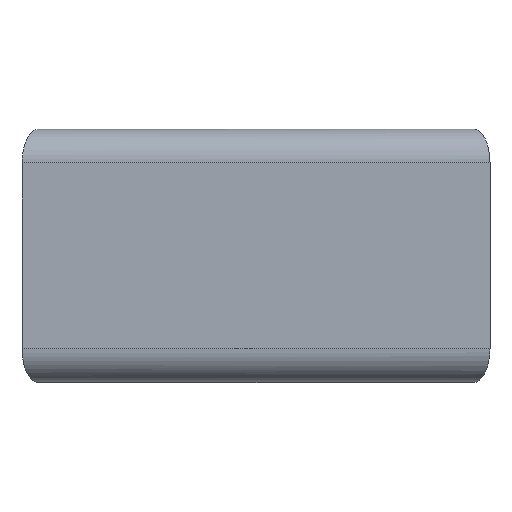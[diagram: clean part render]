
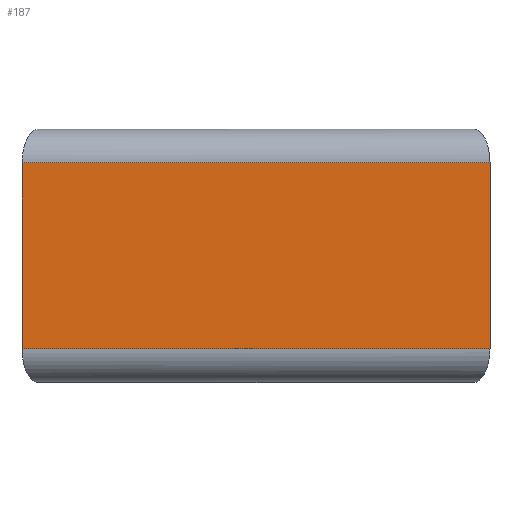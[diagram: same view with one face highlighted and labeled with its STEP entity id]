
A CAD part, top view. The second image highlights one B-rep face of the part: STEP entity #187.
In plain terms, the highlighted planar face has unit normal (0, 0, 1).
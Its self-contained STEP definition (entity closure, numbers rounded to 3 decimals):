
#3 = LINE ( 'NONE', #436, #289 ) ;
#53 = ORIENTED_EDGE ( 'NONE', *, *, #640, .T. ) ;
#57 = EDGE_CURVE ( 'NONE', #513, #469, #586, .T. ) ;
#64 = VECTOR ( 'NONE', #395, 1000. ) ;
#120 = AXIS2_PLACEMENT_3D ( 'NONE', #525, #488, #426 ) ;
#169 = FACE_OUTER_BOUND ( 'NONE', #353, .T. ) ;
#179 = ORIENTED_EDGE ( 'NONE', *, *, #496, .F. ) ;
#187 = ADVANCED_FACE ( 'NONE', ( #169 ), #276, .F. ) ;
#200 = EDGE_CURVE ( 'NONE', #349, #469, #3, .T. ) ;
#242 = CARTESIAN_POINT ( 'NONE',  ( 27.698, 26., 29.698 ) ) ;
#276 = PLANE ( 'NONE',  #120 ) ;
#289 = VECTOR ( 'NONE', #630, 1000. ) ;
#336 = CARTESIAN_POINT ( 'NONE',  ( -27.698, 4., 29.698 ) ) ;
#342 = DIRECTION ( 'NONE',  ( 1., 0., 0. ) ) ;
#344 = LINE ( 'NONE', #347, #64 ) ;
#347 = CARTESIAN_POINT ( 'NONE',  ( 27.698, 28., 29.698 ) ) ;
#349 = VERTEX_POINT ( 'NONE', #425 ) ;
#353 = EDGE_LOOP ( 'NONE', ( #602, #571, #53, #179 ) ) ;
#395 = DIRECTION ( 'NONE',  ( 0., 1., 0. ) ) ;
#425 = CARTESIAN_POINT ( 'NONE',  ( -27.698, 26., 29.698 ) ) ;
#426 = DIRECTION ( 'NONE',  ( -1., 0., 0. ) ) ;
#436 = CARTESIAN_POINT ( 'NONE',  ( -27.698, 28., 29.698 ) ) ;
#446 = DIRECTION ( 'NONE',  ( -1., 0., 0. ) ) ;
#469 = VERTEX_POINT ( 'NONE', #336 ) ;
#488 = DIRECTION ( 'NONE',  ( 0., 0., -1. ) ) ;
#490 = CARTESIAN_POINT ( 'NONE',  ( 27.698, 4., 29.698 ) ) ;
#491 = CARTESIAN_POINT ( 'NONE',  ( 40., 4., 29.698 ) ) ;
#496 = EDGE_CURVE ( 'NONE', #349, #523, #637, .T. ) ;
#513 = VERTEX_POINT ( 'NONE', #490 ) ;
#523 = VERTEX_POINT ( 'NONE', #242 ) ;
#525 = CARTESIAN_POINT ( 'NONE',  ( 40., 28., 29.698 ) ) ;
#541 = CARTESIAN_POINT ( 'NONE',  ( 40., 26., 29.698 ) ) ;
#571 = ORIENTED_EDGE ( 'NONE', *, *, #57, .F. ) ;
#586 = LINE ( 'NONE', #491, #667 ) ;
#602 = ORIENTED_EDGE ( 'NONE', *, *, #200, .T. ) ;
#630 = DIRECTION ( 'NONE',  ( 0., -1., 0. ) ) ;
#637 = LINE ( 'NONE', #541, #673 ) ;
#640 = EDGE_CURVE ( 'NONE', #513, #523, #344, .T. ) ;
#667 = VECTOR ( 'NONE', #446, 1000. ) ;
#673 = VECTOR ( 'NONE', #342, 1000. ) ;
